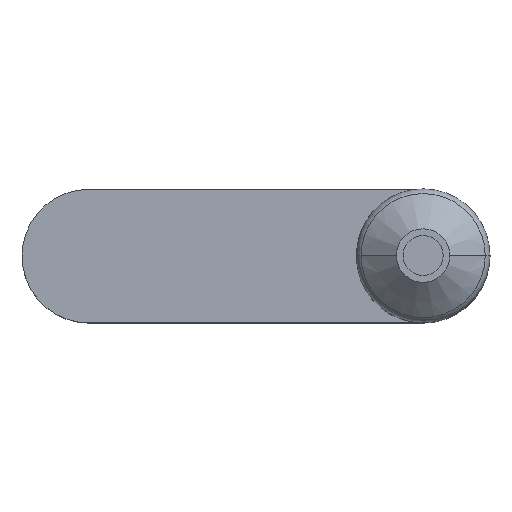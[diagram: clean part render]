
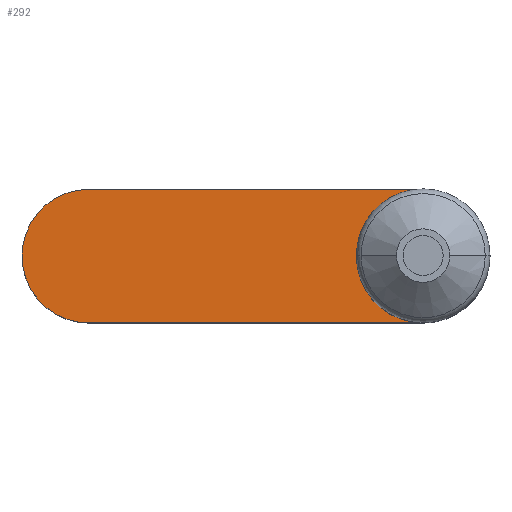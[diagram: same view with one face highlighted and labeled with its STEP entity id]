
A CAD part, top view. The second image highlights one B-rep face of the part: STEP entity #292.
In plain terms, the highlighted planar face has unit normal (0, 0, 1).
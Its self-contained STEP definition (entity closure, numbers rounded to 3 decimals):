
#292 = ADVANCED_FACE ( 'NONE', ( #5312 ), #3259, .F. ) ;
#465 = VECTOR ( 'NONE', #8800, 1000. ) ;
#684 = LINE ( 'NONE', #2307, #9024 ) ;
#1310 = CARTESIAN_POINT ( 'NONE',  ( 0., -10., 27. ) ) ;
#1357 = DIRECTION ( 'NONE',  ( 0., -1., 0. ) ) ;
#1473 = CARTESIAN_POINT ( 'NONE',  ( 0., 10., 27. ) ) ;
#1852 = DIRECTION ( 'NONE',  ( 0., -1., 0. ) ) ;
#1923 = DIRECTION ( 'NONE',  ( 0., 0., -1. ) ) ;
#2182 = ORIENTED_EDGE ( 'NONE', *, *, #3603, .T. ) ;
#2307 = CARTESIAN_POINT ( 'NONE',  ( -50., 10., 27. ) ) ;
#2353 = LINE ( 'NONE', #3148, #465 ) ;
#2532 = CARTESIAN_POINT ( 'NONE',  ( -50., 0., 27. ) ) ;
#2675 = CARTESIAN_POINT ( 'NONE',  ( -50., -10., 27. ) ) ;
#2777 = ORIENTED_EDGE ( 'NONE', *, *, #5494, .T. ) ;
#3148 = CARTESIAN_POINT ( 'NONE',  ( -50., -10., 27. ) ) ;
#3259 = PLANE ( 'NONE',  #5068 ) ;
#3396 = ORIENTED_EDGE ( 'NONE', *, *, #4169, .T. ) ;
#3472 = CARTESIAN_POINT ( 'NONE',  ( 0., 0., 27. ) ) ;
#3603 = EDGE_CURVE ( 'NONE', #6764, #6909, #6051, .T. ) ;
#4169 = EDGE_CURVE ( 'NONE', #4375, #5207, #6384, .T. ) ;
#4198 = DIRECTION ( 'NONE',  ( 0., 0., -1. ) ) ;
#4375 = VERTEX_POINT ( 'NONE', #6861 ) ;
#4545 = AXIS2_PLACEMENT_3D ( 'NONE', #3472, #4198, #1357 ) ;
#4771 = ORIENTED_EDGE ( 'NONE', *, *, #5656, .T. ) ;
#5068 = AXIS2_PLACEMENT_3D ( 'NONE', #8357, #1923, #1852 ) ;
#5207 = VERTEX_POINT ( 'NONE', #2675 ) ;
#5312 = FACE_OUTER_BOUND ( 'NONE', #8134, .T. ) ;
#5494 = EDGE_CURVE ( 'NONE', #6909, #4375, #684, .T. ) ;
#5656 = EDGE_CURVE ( 'NONE', #5207, #6764, #2353, .T. ) ;
#5996 = DIRECTION ( 'NONE',  ( 0., 0., 1. ) ) ;
#6030 = DIRECTION ( 'NONE',  ( 0., -1., 0. ) ) ;
#6051 = CIRCLE ( 'NONE', #4545, 10. ) ;
#6303 = AXIS2_PLACEMENT_3D ( 'NONE', #2532, #5996, #6030 ) ;
#6384 = CIRCLE ( 'NONE', #6303, 10. ) ;
#6581 = DIRECTION ( 'NONE',  ( -1., 0., 0. ) ) ;
#6764 = VERTEX_POINT ( 'NONE', #1310 ) ;
#6861 = CARTESIAN_POINT ( 'NONE',  ( -50., 10., 27. ) ) ;
#6909 = VERTEX_POINT ( 'NONE', #1473 ) ;
#8134 = EDGE_LOOP ( 'NONE', ( #4771, #2182, #2777, #3396 ) ) ;
#8357 = CARTESIAN_POINT ( 'NONE',  ( -50., 0., 27. ) ) ;
#8800 = DIRECTION ( 'NONE',  ( 1., 0., 0. ) ) ;
#9024 = VECTOR ( 'NONE', #6581, 1000. ) ;
